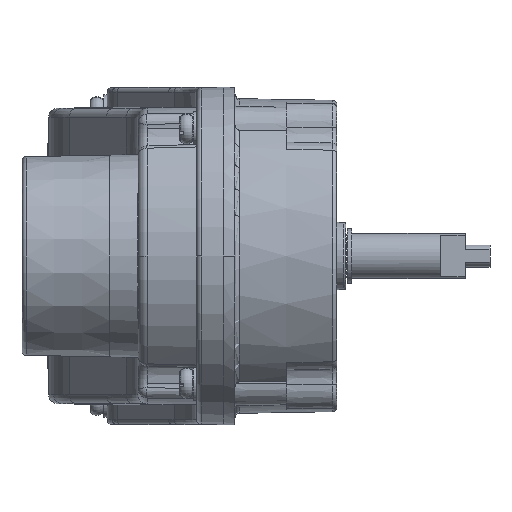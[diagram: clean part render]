
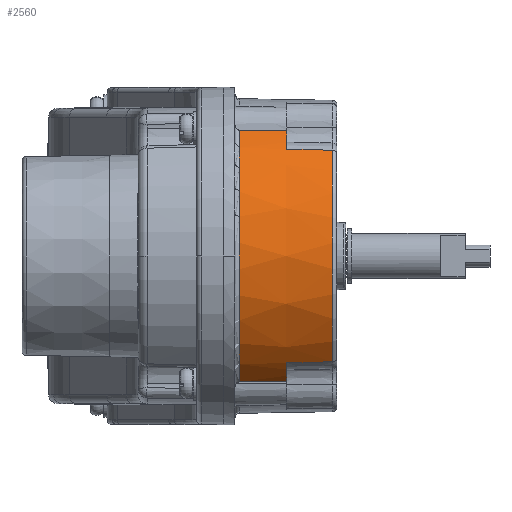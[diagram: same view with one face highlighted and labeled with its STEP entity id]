
A CAD part, left-side view. The second image highlights one B-rep face of the part: STEP entity #2560.
In plain terms, the highlighted conical face has half-angle 1 degrees and reference radius 35 mm.
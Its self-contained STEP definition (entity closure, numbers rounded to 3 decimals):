
#1505 = ORIENTED_EDGE ( 'NONE', *, *, #2876, .F. ) ;
#1822 = CARTESIAN_POINT ( 'NONE',  ( -59.134, -16.858, -23.575 ) ) ;
#2339 = B_SPLINE_CURVE_WITH_KNOTS ( 'NONE', 3,
 ( #49106, #28595, #25172, #20518 ),
 .UNSPECIFIED., .F., .F.,
 ( 4, 4 ),
 ( 0., 0.01 ),
 .UNSPECIFIED. ) ;
#2438 = CARTESIAN_POINT ( 'NONE',  ( -54.594, -4.648, -27.935 ) ) ;
#2560 = ADVANCED_FACE ( 'NONE', ( #44854 ), #24816, .T. ) ;
#2876 = EDGE_CURVE ( 'NONE', #33254, #51872, #44223, .T. ) ;
#3160 = EDGE_CURVE ( 'NONE', #30761, #51872, #51370, .T. ) ;
#3452 = CARTESIAN_POINT ( 'NONE',  ( -54.686, 0.432, 27.977 ) ) ;
#3474 = ORIENTED_EDGE ( 'NONE', *, *, #36649, .T. ) ;
#4151 = EDGE_CURVE ( 'NONE', #35448, #6232, #51382, .T. ) ;
#6232 = VERTEX_POINT ( 'NONE', #36327 ) ;
#7213 = ORIENTED_EDGE ( 'NONE', *, *, #38478, .F. ) ;
#7346 = CIRCLE ( 'NONE', #13379, 34.939 ) ;
#8179 = CARTESIAN_POINT ( 'NONE',  ( -54.513, -9.129, 27.898 ) ) ;
#9099 = DIRECTION ( 'NONE',  ( 0., 1., 0. ) ) ;
#9266 = VERTEX_POINT ( 'NONE', #22807 ) ;
#10235 = CARTESIAN_POINT ( 'NONE',  ( -54.545, -7.367, -27.912 ) ) ;
#10312 = DIRECTION ( 'NONE',  ( 0., -1., 0. ) ) ;
#11300 = ORIENTED_EDGE ( 'NONE', *, *, #4151, .T. ) ;
#11729 = CARTESIAN_POINT ( 'NONE',  ( -59.143, -10.085, 23.738 ) ) ;
#13379 = AXIS2_PLACEMENT_3D ( 'NONE', #26450, #10312, #38727 ) ;
#16121 = ORIENTED_EDGE ( 'NONE', *, *, #3160, .T. ) ;
#18048 = CARTESIAN_POINT ( 'NONE',  ( -59.143, -10.085, -23.738 ) ) ;
#20191 = CARTESIAN_POINT ( 'NONE',  ( -54.548, -7.215, 27.914 ) ) ;
#20518 = CARTESIAN_POINT ( 'NONE',  ( -59.129, -20.244, 23.493 ) ) ;
#20715 = CIRCLE ( 'NONE', #49062, 34.578 ) ;
#21331 = VERTEX_POINT ( 'NONE', #49983 ) ;
#22807 = CARTESIAN_POINT ( 'NONE',  ( -54.496, -10.085, -27.89 ) ) ;
#24234 = CARTESIAN_POINT ( 'NONE',  ( -33.757, -10.085, 0. ) ) ;
#24816 = CONICAL_SURFACE ( 'NONE', #41473, 35., 0.017 ) ;
#25172 = CARTESIAN_POINT ( 'NONE',  ( -59.134, -16.858, 23.575 ) ) ;
#25591 = B_SPLINE_CURVE_WITH_KNOTS ( 'NONE', 3,
 ( #51404, #10235, #2438, #51574, #34808, #43524, #51760 ),
 .UNSPECIFIED., .F., .F.,
 ( 4, 3, 4 ),
 ( 0.001, 0.009, 0.012 ),
 .UNSPECIFIED. ) ;
#26450 = CARTESIAN_POINT ( 'NONE',  ( -33.757, 0.432, 0. ) ) ;
#26831 = ORIENTED_EDGE ( 'NONE', *, *, #37212, .F. ) ;
#28177 = DIRECTION ( 'NONE',  ( -1., 0., 0. ) ) ;
#28583 = CARTESIAN_POINT ( 'NONE',  ( -54.594, -4.666, 27.935 ) ) ;
#28595 = CARTESIAN_POINT ( 'NONE',  ( -59.138, -13.472, 23.656 ) ) ;
#28751 = CARTESIAN_POINT ( 'NONE',  ( -54.64, -2.117, 27.956 ) ) ;
#29227 = EDGE_CURVE ( 'NONE', #6232, #21331, #20715, .T. ) ;
#30421 = CARTESIAN_POINT ( 'NONE',  ( -59.129, -20.244, -23.493 ) ) ;
#30683 = CARTESIAN_POINT ( 'NONE',  ( -54.686, 0.432, -27.977 ) ) ;
#30761 = VERTEX_POINT ( 'NONE', #11729 ) ;
#32665 = EDGE_CURVE ( 'NONE', #9266, #35448, #51006, .T. ) ;
#33254 = VERTEX_POINT ( 'NONE', #3452 ) ;
#33265 = CARTESIAN_POINT ( 'NONE',  ( -33.757, 3.915, 0. ) ) ;
#33449 = DIRECTION ( 'NONE',  ( 1., 0., 0. ) ) ;
#33818 = EDGE_LOOP ( 'NONE', ( #1505, #3474, #26831, #35394, #11300, #46109, #7213, #16121 ) ) ;
#34808 = CARTESIAN_POINT ( 'NONE',  ( -54.658, -1.142, -27.964 ) ) ;
#35394 = ORIENTED_EDGE ( 'NONE', *, *, #32665, .T. ) ;
#35448 = VERTEX_POINT ( 'NONE', #36761 ) ;
#35676 = DIRECTION ( 'NONE',  ( 1., 0., 0. ) ) ;
#36106 = DIRECTION ( 'NONE',  ( 1., 0., 0. ) ) ;
#36270 = DIRECTION ( 'NONE',  ( 0., 1., 0. ) ) ;
#36327 = CARTESIAN_POINT ( 'NONE',  ( -59.129, -20.244, -23.493 ) ) ;
#36649 = EDGE_CURVE ( 'NONE', #33254, #49110, #7346, .T. ) ;
#36690 = CARTESIAN_POINT ( 'NONE',  ( -54.686, 0.432, 27.977 ) ) ;
#36761 = CARTESIAN_POINT ( 'NONE',  ( -59.143, -10.085, -23.738 ) ) ;
#37212 = EDGE_CURVE ( 'NONE', #9266, #49110, #25591, .T. ) ;
#38084 = AXIS2_PLACEMENT_3D ( 'NONE', #48283, #44183, #35676 ) ;
#38478 = EDGE_CURVE ( 'NONE', #30761, #21331, #2339, .T. ) ;
#38727 = DIRECTION ( 'NONE',  ( -1., 0., 0. ) ) ;
#40863 = CARTESIAN_POINT ( 'NONE',  ( -54.496, -10.085, 27.89 ) ) ;
#41473 = AXIS2_PLACEMENT_3D ( 'NONE', #33265, #9099, #33449 ) ;
#42193 = AXIS2_PLACEMENT_3D ( 'NONE', #24234, #52848, #36106 ) ;
#43524 = CARTESIAN_POINT ( 'NONE',  ( -54.672, -0.355, -27.97 ) ) ;
#44183 = DIRECTION ( 'NONE',  ( 0., 1., 0. ) ) ;
#44223 = B_SPLINE_CURVE_WITH_KNOTS ( 'NONE', 3,
 ( #36690, #28751, #28583, #20191, #48926, #8179, #40863 ),
 .UNSPECIFIED., .F., .F.,
 ( 4, 3, 4 ),
 ( 0.002, 0.01, 0.013 ),
 .UNSPECIFIED. ) ;
#44854 = FACE_OUTER_BOUND ( 'NONE', #33818, .T. ) ;
#46109 = ORIENTED_EDGE ( 'NONE', *, *, #29227, .T. ) ;
#47193 = CARTESIAN_POINT ( 'NONE',  ( -59.138, -13.472, -23.656 ) ) ;
#48283 = CARTESIAN_POINT ( 'NONE',  ( -33.757, -10.085, 0. ) ) ;
#48926 = CARTESIAN_POINT ( 'NONE',  ( -54.53, -8.172, 27.906 ) ) ;
#49062 = AXIS2_PLACEMENT_3D ( 'NONE', #52124, #36270, #28177 ) ;
#49106 = CARTESIAN_POINT ( 'NONE',  ( -59.143, -10.085, 23.738 ) ) ;
#49110 = VERTEX_POINT ( 'NONE', #30683 ) ;
#49983 = CARTESIAN_POINT ( 'NONE',  ( -59.129, -20.244, 23.493 ) ) ;
#50863 = CARTESIAN_POINT ( 'NONE',  ( -54.496, -10.085, 27.89 ) ) ;
#51006 = CIRCLE ( 'NONE', #42193, 34.756 ) ;
#51370 = CIRCLE ( 'NONE', #38084, 34.756 ) ;
#51382 = B_SPLINE_CURVE_WITH_KNOTS ( 'NONE', 3,
 ( #18048, #47193, #1822, #30421 ),
 .UNSPECIFIED., .F., .F.,
 ( 4, 4 ),
 ( 0., 0.01 ),
 .UNSPECIFIED. ) ;
#51404 = CARTESIAN_POINT ( 'NONE',  ( -54.496, -10.085, -27.89 ) ) ;
#51574 = CARTESIAN_POINT ( 'NONE',  ( -54.643, -1.929, -27.957 ) ) ;
#51760 = CARTESIAN_POINT ( 'NONE',  ( -54.686, 0.432, -27.977 ) ) ;
#51872 = VERTEX_POINT ( 'NONE', #50863 ) ;
#52124 = CARTESIAN_POINT ( 'NONE',  ( -33.757, -20.244, 0. ) ) ;
#52848 = DIRECTION ( 'NONE',  ( 0., 1., 0. ) ) ;
